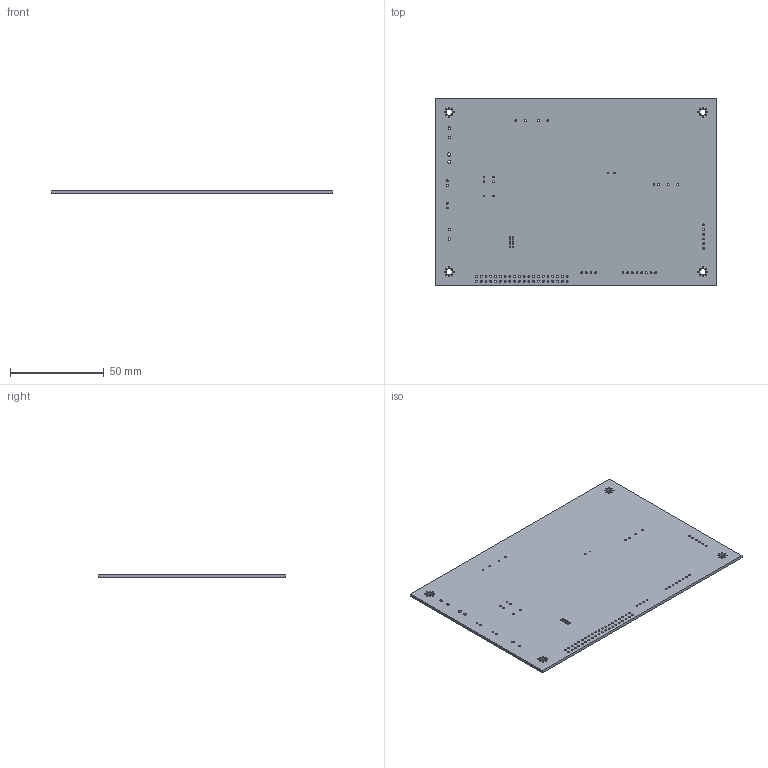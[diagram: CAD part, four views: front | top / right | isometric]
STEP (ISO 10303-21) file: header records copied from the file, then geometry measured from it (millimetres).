
FILE_DESCRIPTION(('KiCad electronic assembly'),'2;1');
FILE_NAME('MR-RTIO-A_board.step','2026-09-14T00:15:23',('Pcbnew'),( 'Kicad'),'Open CASCADE STEP processor 7.6','KiCad to STEP converter' ,'Unknown');
FILE_SCHEMA(('AUTOMOTIVE_DESIGN { 1 0 10303 214 1 1 1 1 }'));
Length unit declared in the file: millimetre
Products named in the file (2): MR-RTIO-A_board 1; MR-RTIO-A_PCB
Assembly tree (1 placements, depth 2):
  MR-RTIO-A_board 1
    MR-RTIO-A_PCB
Bounding box: 150 x 100 x 1.51 mm (x, y, z)
Volume: 22482.5 mm3; surface area: 31105.2 mm2
Topology: 1 solids, 1 shells, 136 faces, 402 edges, 268 vertices
Faces by surface type: cylinder 130, plane 6
Full cylindrical faces by diameter (mm): 0.5 x32, 0.65 x10, 0.8 x2, 0.95 x18, 1 x58, 1.3 x4, 1.7 x2, 3.2 x4
Entity records: 5263 total; most frequent: DIRECTION 938, CARTESIAN_POINT 808, ORIENTED_EDGE 804, EDGE_CURVE 402, AXIS2_PLACEMENT_3D 398, FACE_BOUND 396, EDGE_LOOP 396, VERTEX_POINT 268
